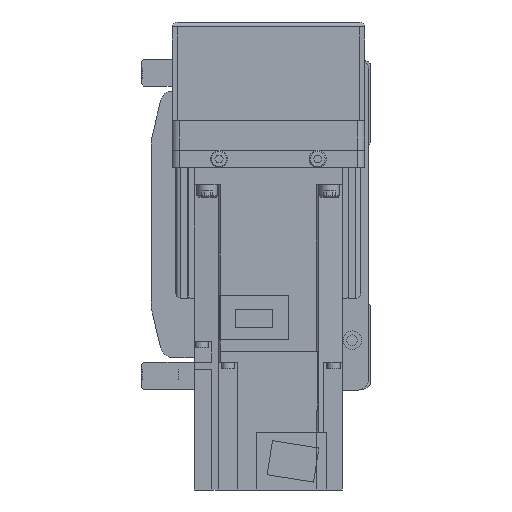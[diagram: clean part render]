
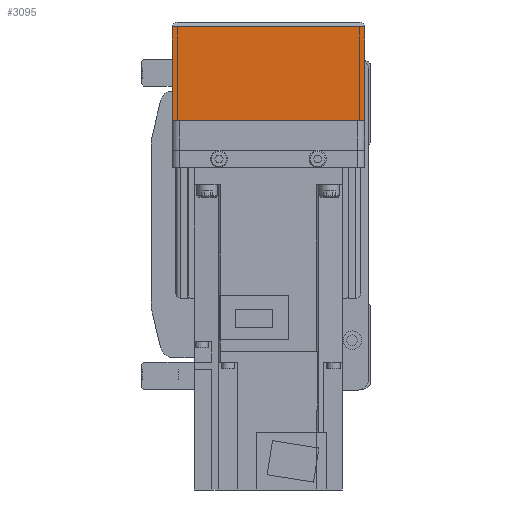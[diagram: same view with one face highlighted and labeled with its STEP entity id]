
A CAD part, left-side view. The second image highlights one B-rep face of the part: STEP entity #3095.
In plain terms, the highlighted planar face has unit normal (-1, 0, 0).
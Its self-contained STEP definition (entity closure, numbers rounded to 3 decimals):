
#3095 = ADVANCED_FACE( '', ( #6532 ), #6533, .F. );
#6532 = FACE_OUTER_BOUND( '', #10098, .T. );
#6533 = PLANE( '', #10099 );
#10098 = EDGE_LOOP( '', ( #18771, #18772, #18773, #18774 ) );
#10099 = AXIS2_PLACEMENT_3D( '', #18775, #18776, #18777 );
#18771 = ORIENTED_EDGE( '', *, *, #21214, .F. );
#18772 = ORIENTED_EDGE( '', *, *, #22810, .F. );
#18773 = ORIENTED_EDGE( '', *, *, #22288, .T. );
#18774 = ORIENTED_EDGE( '', *, *, #23308, .F. );
#18775 = CARTESIAN_POINT( '', ( -158., 36., 7. ) );
#18776 = DIRECTION( '', ( 1., 0., 0. ) );
#18777 = DIRECTION( '', ( 0., 0., -1. ) );
#21214 = EDGE_CURVE( '', #25754, #25756, #25757, .T. );
#22288 = EDGE_CURVE( '', #24307, #27398, #27400, .T. );
#22810 = EDGE_CURVE( '', #24307, #25754, #28118, .T. );
#23308 = EDGE_CURVE( '', #25756, #27398, #28745, .T. );
#24307 = VERTEX_POINT( '', #30027 );
#25754 = VERTEX_POINT( '', #32434 );
#25756 = VERTEX_POINT( '', #32437 );
#25757 = LINE( '', #32438, #32439 );
#27398 = VERTEX_POINT( '', #34891 );
#27400 = LINE( '', #34893, #34894 );
#28118 = LINE( '', #35935, #35936 );
#28745 = LINE( '', #37005, #37006 );
#30027 = CARTESIAN_POINT( '', ( -158., 39., -50. ) );
#32434 = CARTESIAN_POINT( '', ( -158., 39., -12.1 ) );
#32437 = CARTESIAN_POINT( '', ( -158., -39., -12.1 ) );
#32438 = CARTESIAN_POINT( '', ( -158., 50., -12.1 ) );
#32439 = VECTOR( '', #39091, 1000. );
#34891 = CARTESIAN_POINT( '', ( -158., -39., -50. ) );
#34893 = CARTESIAN_POINT( '', ( -158., 40., -50. ) );
#34894 = VECTOR( '', #40407, 1000. );
#35935 = CARTESIAN_POINT( '', ( -158., 39., -50. ) );
#35936 = VECTOR( '', #41041, 1000. );
#37005 = CARTESIAN_POINT( '', ( -158., -39., -12.1 ) );
#37006 = VECTOR( '', #41504, 1000. );
#39091 = DIRECTION( '', ( 0., -1., 0. ) );
#40407 = DIRECTION( '', ( 0., -1., 0. ) );
#41041 = DIRECTION( '', ( 0., 0., 1. ) );
#41504 = DIRECTION( '', ( 0., 0., -1. ) );
